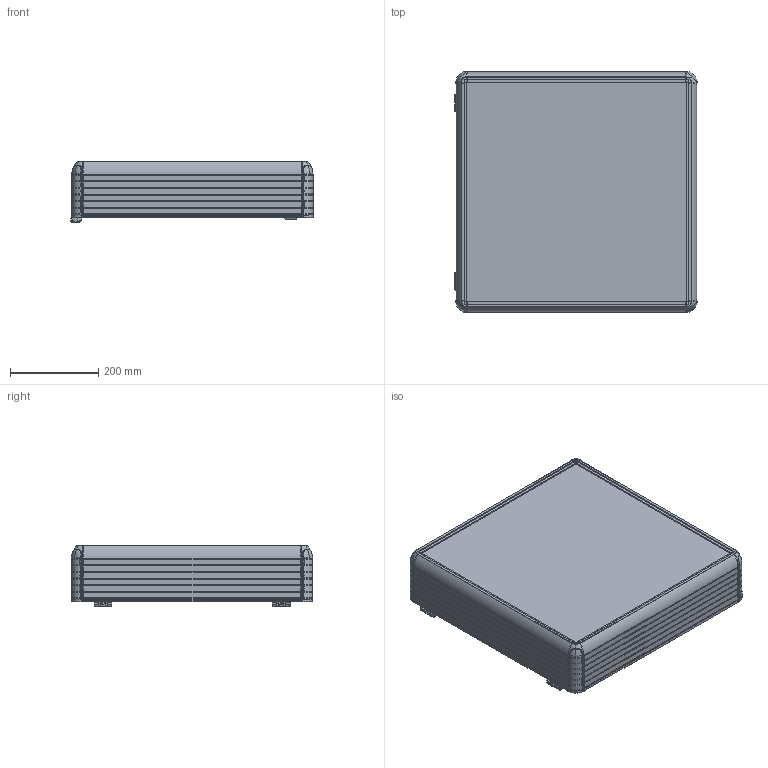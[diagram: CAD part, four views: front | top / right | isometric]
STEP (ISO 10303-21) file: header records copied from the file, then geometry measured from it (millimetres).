
FILE_DESCRIPTION (( 'STEP AP214' ), '1' );
FILE_NAME ('1200-0012.STEP', '2022-09-01T07:40:03', ( '' ), ( '' ), 'SwSTEP 2.0', 'SolidWorks 2022', '' );
FILE_SCHEMA (( 'AUTOMOTIVE_DESIGN' ));
Length unit declared in the file: millimetre
Products named in the file (5): HPECO-120-001-295_495; 1200-0012; ARKA_KAPAK_500X500; ECO1200-0000; 500X500
Assembly tree (10 placements, depth 2):
  1200-0012
    500X500
    ARKA_KAPAK_500X500
    HPECO-120-001-295_495  x4
    ECO1200-0000  x4
Bounding box: 549.03 x 547 x 139.15 mm (x, y, z)
Volume: 5286538.1 mm3; surface area: 1899738.4 mm2
Topology: 18 solids, 68 shells, 5793 faces, 15616 edges, 9766 vertices
Faces by surface type: plane 2417, cylinder 1464, bspline 1056, cone 566, torus 244, sphere 46
Entity records: 145186 total; most frequent: CARTESIAN_POINT 34696, ORIENTED_EDGE 17332, DIRECTION 15223, EDGE_CURVE 8666, AXIS2_PLACEMENT_3D 5603, VERTEX_POINT 5389, VECTOR 4017, LINE 4017
